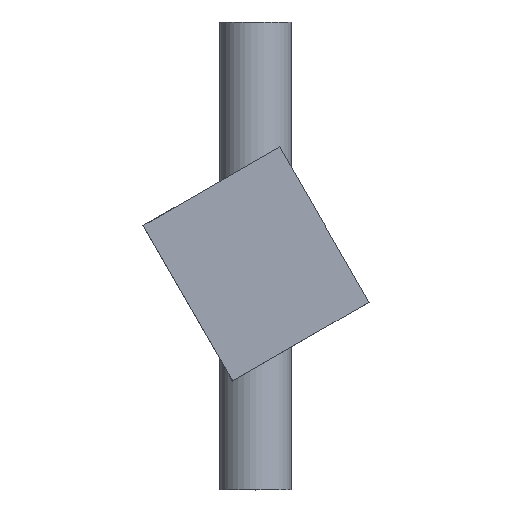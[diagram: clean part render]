
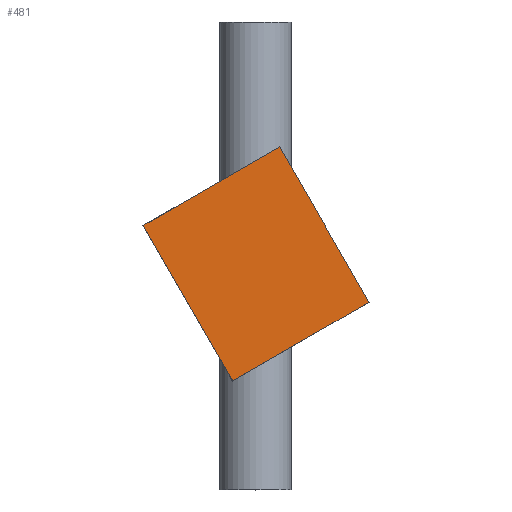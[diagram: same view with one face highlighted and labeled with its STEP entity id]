
A CAD part, top view. The second image highlights one B-rep face of the part: STEP entity #481.
In plain terms, the highlighted planar face has unit normal (0.016, 0.009, 1) as drawn and (0, 0, 1) by its records, which use the part's own axes.
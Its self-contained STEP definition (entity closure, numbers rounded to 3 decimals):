
#73=LINE('',#811,#103);
#77=LINE('',#819,#107);
#78=LINE('',#821,#108);
#79=LINE('',#822,#109);
#103=VECTOR('',#647,10.);
#107=VECTOR('',#653,1000.);
#108=VECTOR('',#654,1000.);
#109=VECTOR('',#655,1000.);
#134=PLANE('',#573);
#190=FACE_OUTER_BOUND('',#223,.T.);
#223=EDGE_LOOP('',(#278,#279,#280,#281));
#278=ORIENTED_EDGE('',*,*,#371,.T.);
#279=ORIENTED_EDGE('',*,*,#375,.F.);
#280=ORIENTED_EDGE('',*,*,#376,.T.);
#281=ORIENTED_EDGE('',*,*,#377,.T.);
#371=EDGE_CURVE('',#421,#422,#73,.T.);
#375=EDGE_CURVE('',#425,#422,#77,.T.);
#376=EDGE_CURVE('',#425,#426,#78,.T.);
#377=EDGE_CURVE('',#426,#421,#79,.T.);
#421=VERTEX_POINT('',#809);
#422=VERTEX_POINT('',#810);
#425=VERTEX_POINT('',#818);
#426=VERTEX_POINT('',#820);
#481=ADVANCED_FACE('',(#190),#134,.F.);
#573=AXIS2_PLACEMENT_3D('',#817,#651,#652);
#647=DIRECTION('',(0.,1.,0.));
#651=DIRECTION('center_axis',(0.,0.,-1.));
#652=DIRECTION('ref_axis',(-1.,0.,0.));
#653=DIRECTION('',(1.,0.,0.));
#654=DIRECTION('',(0.,-1.,0.));
#655=DIRECTION('',(1.,0.,0.));
#809=CARTESIAN_POINT('',(-6.,0.,0.));
#810=CARTESIAN_POINT('',(-6.,50.,0.));
#811=CARTESIAN_POINT('',(-6.,50.,0.));
#817=CARTESIAN_POINT('Origin',(0.,50.,0.));
#818=CARTESIAN_POINT('',(-50.,50.,0.));
#819=CARTESIAN_POINT('',(0.,50.,0.));
#820=CARTESIAN_POINT('',(-50.,0.,0.));
#821=CARTESIAN_POINT('',(-50.,50.,0.));
#822=CARTESIAN_POINT('',(0.,0.,0.));
